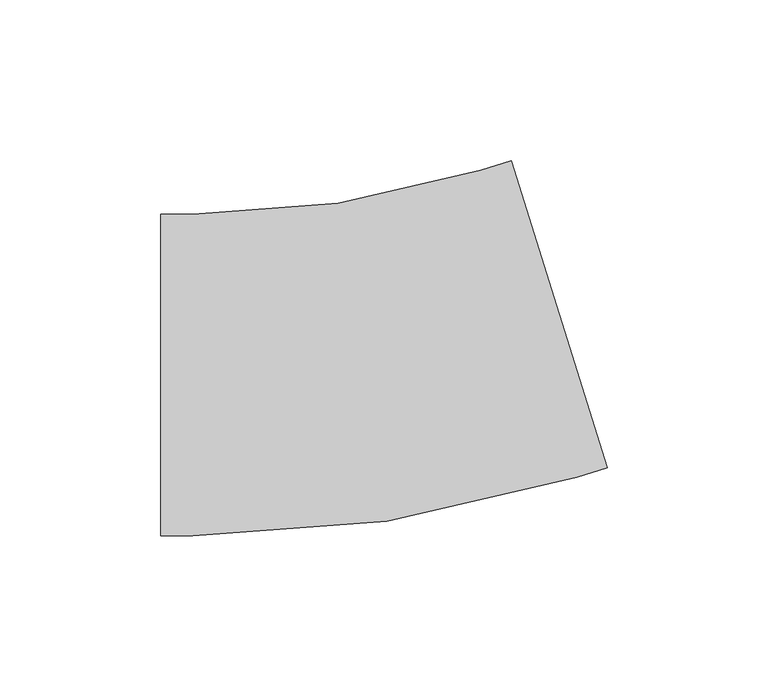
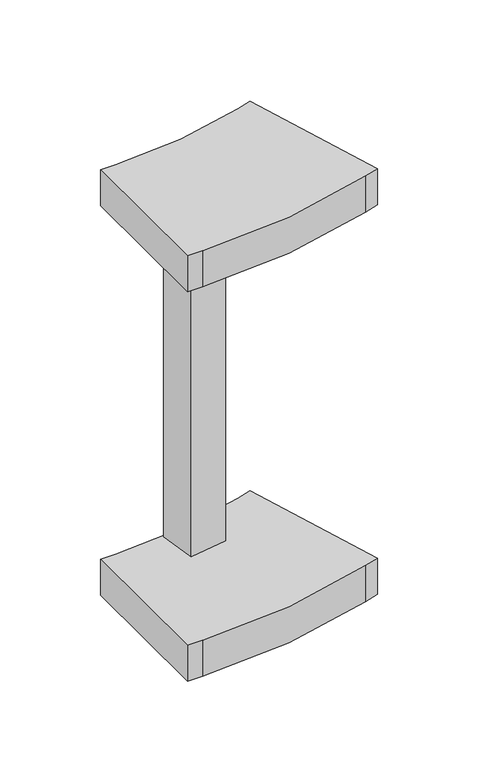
"""IFC4 building model written with IfcOpenShell, lengths in millimetres: cable carrier fitting geometry, ADSK_Поворот вертикальный наружный_Лестничный лоток : Радиус 300 мм."""

from ifc_helpers import new_model, si_unit, point, frame, frame_2d, origin, place, context, project, spatial, polyline, circle_curve, trimmed, segment, composite_curve, outline, extrude, source, transform, mapped, element, save


def cable_carrier_fitting_a781886d(model_context):
    return source(origin(), model_context, "Body", "SweptSolid", [
        extrude(outline(polyline([(4.3964488, 55.3529362), (8.2298368, 30.2438714), (-16.879228, 26.4104834), (-20.712616, 51.5195482), (4.3964488, 55.3529362)])), frame((0.0, 0.0, -124.6), z_axis=(0.0, 0.0, 1.0), x_axis=(1.0, 0.0, 0.0)), (0.0, 0.0, 1.0), 249.2),
        extrude(outline(composite_curve([segment(polyline([(-63.4343199, -50.0), (-63.4343199, 50.0), (-53.4343199, 50.0)]), True, "CONTINUOUS"), segment(trimmed(circle_curve(frame_2d((-53.4343199, 350.0)), 300.0), [point((-53.4343199, 50.0))], [point((36.0809519, 63.6662505))], True, "CARTESIAN"), True, "CONTINUOUS"), segment(polyline([(36.0809519, 63.6662505), (45.6254102, 66.6500929), (75.4638342, -28.7944903), (65.9193759, -31.7783327)]), True, "CONTINUOUS"), segment(trimmed(circle_curve(frame_2d((-53.4343199, 350.0)), 400.0), [point((65.9193759, -31.7783327))], [point((-53.4343199, -50.0))], False, "CARTESIAN"), True, "CONTINUOUS"), segment(polyline([(-53.4343199, -50.0), (-63.4343199, -50.0)]), True, "CONTINUOUS")], self_intersect=False)), frame((0.0, 0.0, 124.6), z_axis=(0.0, 0.0, 1.0), x_axis=(1.0, 0.0, 0.0)), (0.0, 0.0, 1.0), 25.4),
        extrude(outline(composite_curve([segment(polyline([(-63.4343199, -50.0), (-63.4343199, 50.0), (-53.4343199, 50.0)]), True, "CONTINUOUS"), segment(trimmed(circle_curve(frame_2d((-53.4343199, 350.0)), 300.0), [point((-53.4343199, 50.0))], [point((36.0809519, 63.6662505))], True, "CARTESIAN"), True, "CONTINUOUS"), segment(polyline([(36.0809519, 63.6662505), (45.6254102, 66.6500929), (75.4638342, -28.7944903), (65.9193759, -31.7783327)]), True, "CONTINUOUS"), segment(trimmed(circle_curve(frame_2d((-53.4343199, 350.0)), 400.0), [point((65.9193759, -31.7783327))], [point((-53.4343199, -50.0))], False, "CARTESIAN"), True, "CONTINUOUS"), segment(polyline([(-53.4343199, -50.0), (-63.4343199, -50.0)]), True, "CONTINUOUS")], self_intersect=False)), frame((0.0, 0.0, -150.0), z_axis=(0.0, 0.0, 1.0), x_axis=(1.0, 0.0, 0.0)), (0.0, 0.0, 1.0), 25.4),
    ])


if __name__ == "__main__":
    model = new_model("IFC4")
    model_context = context("Model", 3, world=origin())
    ifc_project = project(units=[si_unit("LENGTHUNIT", "METRE", prefix="MILLI")], contexts=[model_context])
    site = spatial("IfcSite", under=ifc_project)
    building = spatial("IfcBuilding", under=site)
    placement = place(None, origin())
    cable_carrier_fitting_shape = cable_carrier_fitting_a781886d(model_context)
    element("IfcCableCarrierFitting", 1, ObjectType="ADSK_Поворот вертикальный наружный_Лестничный лоток : Радиус 300 мм", at=placement, inside=building, context=model_context, shape_type="MappedRepresentation", body=[
        mapped(cable_carrier_fitting_shape, transform((0.0, 0.0, 0.0), x_axis=(1.0, 0.0, 0.0), y_axis=(0.0, 1.0, 0.0), z_axis=(0.0, 0.0, 1.0))),
    ])
    save(model, "model.ifc")
